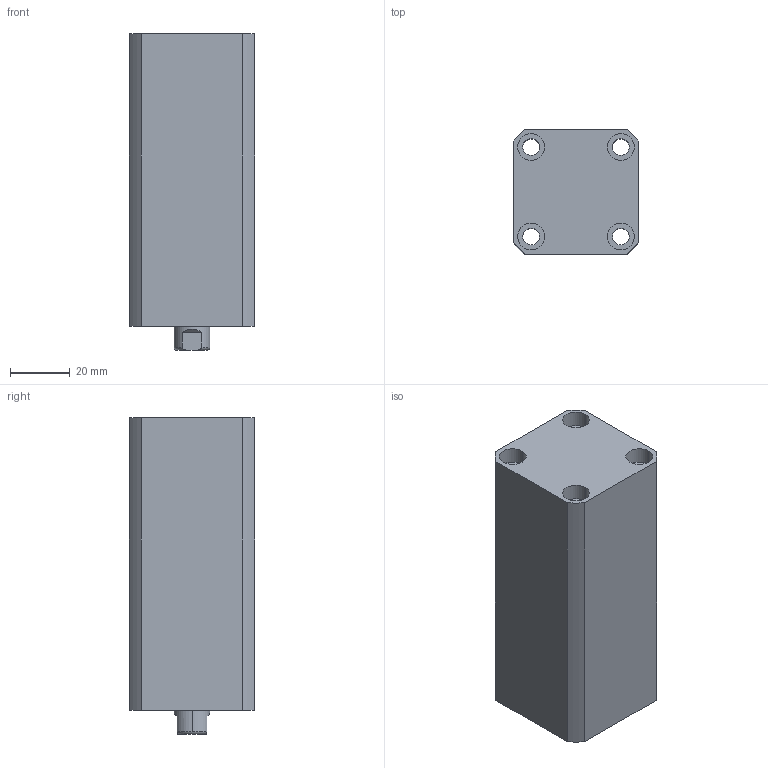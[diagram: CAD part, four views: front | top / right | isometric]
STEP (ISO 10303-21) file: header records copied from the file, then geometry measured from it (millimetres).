
FILE_DESCRIPTION (( 'STEP AP214' ), '1' );
FILE_NAME ('chtb-sd20x55n_asm.STEP', '2018-04-26T12:08:32', ( 'Windows' ), ( 'Microsoft' ), 'SwSTEP 2.0', 'SolidWorks 2015', '' );
FILE_SCHEMA (( 'AUTOMOTIVE_DESIGN' ));
Length unit declared in the file: millimetre
Products named in the file (4): CHTB-SD20X55NBT; chtb-sd20x55n_asm; CHTB-SD20X55NHSG; QG
Assembly tree (3 placements, depth 2):
  chtb-sd20x55n_asm
    CHTB-SD20X55NBT
    QG
    CHTB-SD20X55NHSG
Bounding box: 42 x 42 x 106 mm (x, y, z)
Volume: 144766.4 mm3; surface area: 42782.5 mm2
Topology: 3 solids, 3 shells, 192 faces, 499 edges, 330 vertices
Faces by surface type: cylinder 102, plane 36, torus 25, bspline 19, cone 10
Entity records: 10524 total; most frequent: CARTESIAN_POINT 5851, ORIENTED_EDGE 986, DIRECTION 903, EDGE_CURVE 493, AXIS2_PLACEMENT_3D 385, VERTEX_POINT 330, EDGE_LOOP 229, CIRCLE 206
